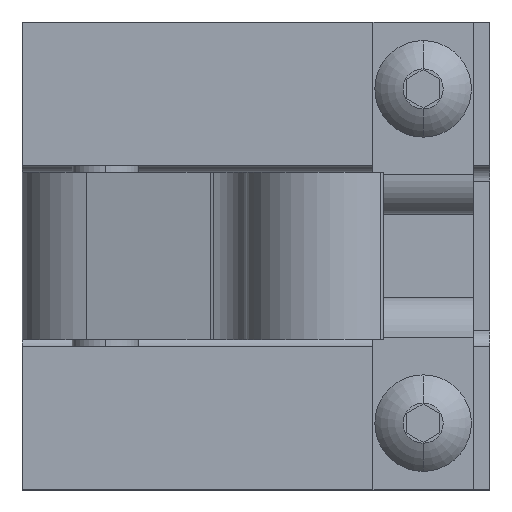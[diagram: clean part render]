
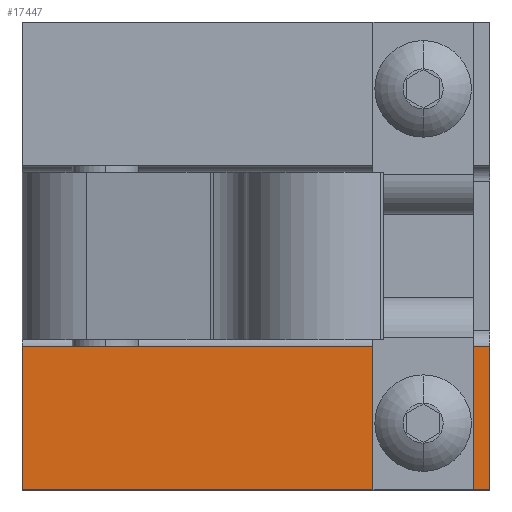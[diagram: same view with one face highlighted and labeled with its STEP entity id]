
A CAD part, left-side view. The second image highlights one B-rep face of the part: STEP entity #17447.
In plain terms, the highlighted planar face has unit normal (-1, 0, 0).
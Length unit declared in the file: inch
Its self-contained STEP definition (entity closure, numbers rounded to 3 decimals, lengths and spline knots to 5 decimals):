
#943 = CARTESIAN_POINT ( 'NONE',  ( 7.4273, 3.59026, -1.75 ) ) ;
#944 = DIRECTION ( 'NONE',  ( 0., -1., 0. ) ) ;
#945 = VECTOR ( 'NONE', #944, 39.37008 ) ;
#946 = CARTESIAN_POINT ( 'NONE',  ( 7.4273, 3.59026, -1.75 ) ) ;
#947 = LINE ( 'NONE', #946, #945 ) ;
#1088 = CARTESIAN_POINT ( 'NONE',  ( 7.4273, 3.59026, -1.215 ) ) ;
#1089 = DIRECTION ( 'NONE',  ( 0., -1., 0. ) ) ;
#1090 = VECTOR ( 'NONE', #1089, 39.37008 ) ;
#1091 = CARTESIAN_POINT ( 'NONE',  ( 7.4273, 3.59026, -1.215 ) ) ;
#1092 = LINE ( 'NONE', #1091, #1090 ) ;
#1137 = DIRECTION ( 'NONE',  ( 0., 0., 1. ) ) ;
#1138 = DIRECTION ( 'NONE',  ( -1., 0., 0. ) ) ;
#1139 = CARTESIAN_POINT ( 'NONE',  ( 7.4273, 3.84026, -1.5 ) ) ;
#1140 = AXIS2_PLACEMENT_3D ( 'NONE', #1139, #1138, #1137 ) ;
#1141 = CIRCLE ( 'NONE', #1140, 0.09375 ) ;
#1333 = DIRECTION ( 'NONE',  ( 0., 0., 1. ) ) ;
#1334 = DIRECTION ( 'NONE',  ( -1., 0., 0. ) ) ;
#1335 = CARTESIAN_POINT ( 'NONE',  ( 7.4273, 3.59026, -1.75 ) ) ;
#1336 = AXIS2_PLACEMENT_3D ( 'NONE', #1335, #1334, #1333 ) ;
#1337 = PLANE ( 'NONE',  #1336 ) ;
#1359 = FACE_OUTER_BOUND ( 'NONE', #17395, .T. ) ;
#1360 = FACE_BOUND ( 'NONE', #17427, .T. ) ;
#1480 = DIRECTION ( 'NONE',  ( 0., 0., 1. ) ) ;
#1481 = VECTOR ( 'NONE', #1480, 39.37008 ) ;
#1482 = CARTESIAN_POINT ( 'NONE',  ( 7.4273, 3.59026, -1.75 ) ) ;
#1483 = LINE ( 'NONE', #1482, #1481 ) ;
#8095 = CARTESIAN_POINT ( 'NONE',  ( 7.4273, 3.84026, -1.59375 ) ) ;
#8237 = CIRCLE ( 'NONE', #8262, 0.09375 ) ;
#8258 = CARTESIAN_POINT ( 'NONE',  ( 7.4273, 3.84026, -1.40625 ) ) ;
#8259 = DIRECTION ( 'NONE',  ( 0., 0., 1. ) ) ;
#8260 = DIRECTION ( 'NONE',  ( -1., 0., 0. ) ) ;
#8261 = CARTESIAN_POINT ( 'NONE',  ( 7.4273, 3.84026, -1.5 ) ) ;
#8262 = AXIS2_PLACEMENT_3D ( 'NONE', #8261, #8260, #8259 ) ;
#8955 = CARTESIAN_POINT ( 'NONE',  ( 7.4273, 5.34026, -1.215 ) ) ;
#9944 = DIRECTION ( 'NONE',  ( 0., 0., 1. ) ) ;
#9945 = VECTOR ( 'NONE', #9944, 39.37008 ) ;
#9946 = CARTESIAN_POINT ( 'NONE',  ( 7.4273, 5.34026, -1.75 ) ) ;
#9956 = LINE ( 'NONE', #9946, #9945 ) ;
#9959 = CARTESIAN_POINT ( 'NONE',  ( 7.4273, 5.34026, -1.75 ) ) ;
#15422 = VERTEX_POINT ( 'NONE', #8095 ) ;
#15488 = EDGE_CURVE ( 'NONE', #15422, #15490, #8237, .T. ) ;
#15490 = VERTEX_POINT ( 'NONE', #8258 ) ;
#15800 = VERTEX_POINT ( 'NONE', #8955 ) ;
#16161 = VERTEX_POINT ( 'NONE', #9959 ) ;
#16165 = EDGE_CURVE ( 'NONE', #16161, #15800, #9956, .T. ) ;
#17392 = ORIENTED_EDGE ( 'NONE', *, *, #15488, .F. ) ;
#17395 = EDGE_LOOP ( 'NONE', ( #17397, #17402, #17403, #17511 ) ) ;
#17397 = ORIENTED_EDGE ( 'NONE', *, *, #17398, .F. ) ;
#17398 = EDGE_CURVE ( 'NONE', #15800, #17400, #1092, .T. ) ;
#17400 = VERTEX_POINT ( 'NONE', #1088 ) ;
#17402 = ORIENTED_EDGE ( 'NONE', *, *, #16165, .F. ) ;
#17403 = ORIENTED_EDGE ( 'NONE', *, *, #17405, .T. ) ;
#17405 = EDGE_CURVE ( 'NONE', #16161, #17407, #947, .T. ) ;
#17407 = VERTEX_POINT ( 'NONE', #943 ) ;
#17427 = EDGE_LOOP ( 'NONE', ( #17450, #17392 ) ) ;
#17447 = ADVANCED_FACE ( 'NONE', ( #1360, #1359 ), #1337, .T. ) ;
#17450 = ORIENTED_EDGE ( 'NONE', *, *, #17452, .F. ) ;
#17452 = EDGE_CURVE ( 'NONE', #15490, #15422, #1141, .T. ) ;
#17511 = ORIENTED_EDGE ( 'NONE', *, *, #17512, .T. ) ;
#17512 = EDGE_CURVE ( 'NONE', #17407, #17400, #1483, .T. ) ;
